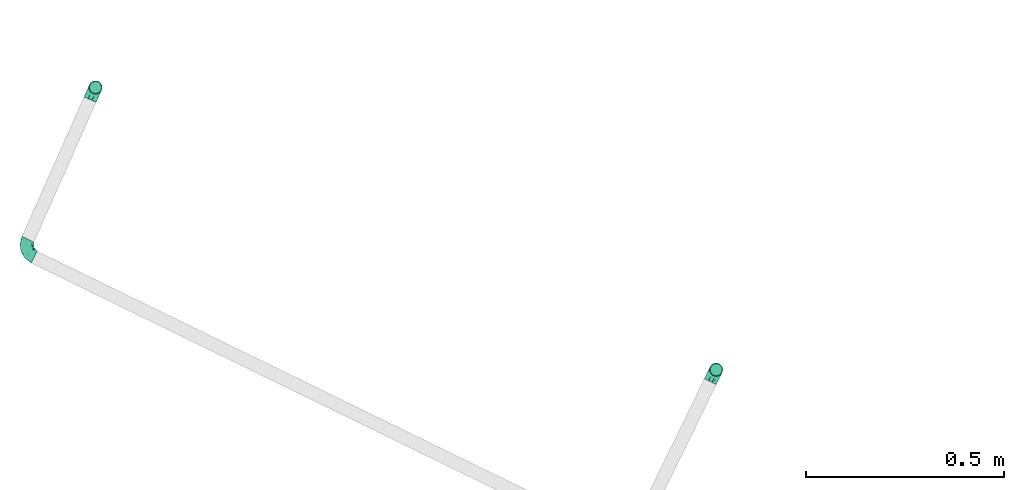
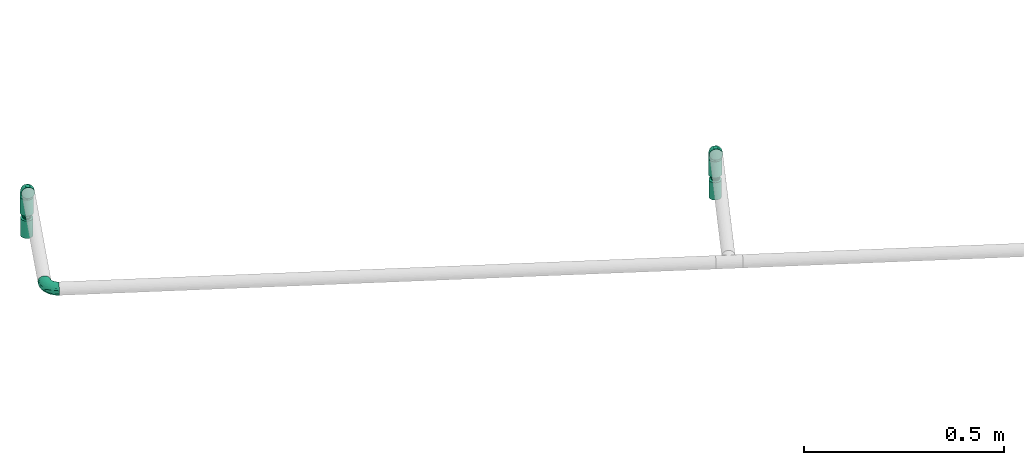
# One storey, part 34 of 43: 5 flow fittings, 2 flow segments, 2 flow terminals.
"""IFC2X3 building model written with IfcOpenShell, lengths in millimetres."""

from ifc_helpers import new_model, entity, si_unit, converted_unit, derived_unit, direction, frame, origin_with_axes, origin_2d_with_axis, place, context, subcontext, project, spatial, hollow_circle, extrude, open_shell, surface_model, source, transform, mapped, type_object, element, save


model = new_model("IFC2X3")

# Units and contexts
model_context = context("Model", 3, precision=0.01, world=frame((0.0, 4.29681676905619e-09, 0.0)), true_north=direction((4.01073788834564e-13, 1.0)))
plan_context = context("Plan", 3, precision=0.01, world=frame((0.0, 4.29681676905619e-09, 0.0)), true_north=direction((4.01073788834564e-13, 1.0)))
body_context = subcontext(model_context, "Body", "Model", "MODEL_VIEW")
ifc_project = project(units=[converted_unit("PLANEANGLEUNIT", "DEGREE", entity("IfcPositiveLengthMeasure", 0.0174532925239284), si_unit("PLANEANGLEUNIT", "RADIAN"), dimensions=[0, 0, 0, 0, 0, 0, 0]), si_unit("AREAUNIT", "SQUARE_METRE"), si_unit("LENGTHUNIT", "METRE", prefix="MILLI"), si_unit("MASSUNIT", "GRAM", prefix="KILO"), si_unit("POWERUNIT", "WATT"), si_unit("PRESSUREUNIT", "PASCAL"), si_unit("FORCEUNIT", "NEWTON", prefix="KILO"), si_unit("ELECTRICVOLTAGEUNIT", "VOLT"), si_unit("ELECTRICCURRENTUNIT", "AMPERE"), si_unit("THERMODYNAMICTEMPERATUREUNIT", "DEGREE_CELSIUS"), si_unit("TIMEUNIT", "SECOND"), si_unit("VOLUMEUNIT", "CUBIC_METRE"), derived_unit("LINEARVELOCITYUNIT", [(si_unit("LENGTHUNIT", "METRE"), 1), (si_unit("TIMEUNIT", "SECOND"), -1)]), derived_unit("VOLUMETRICFLOWRATEUNIT", [(si_unit("VOLUMEUNIT", "CUBIC_METRE"), 1), (si_unit("TIMEUNIT", "SECOND"), -1)]), derived_unit("THERMALTRANSMITTANCEUNIT", [(si_unit("POWERUNIT", "WATT"), 1), (si_unit("THERMODYNAMICTEMPERATUREUNIT", "KELVIN"), -1), (si_unit("AREAUNIT", "SQUARE_METRE"), -1)]), derived_unit("SOUNDPRESSUREUNIT", [(si_unit("PRESSUREUNIT", "PASCAL"), 1)])], contexts=[model_context, plan_context])

# Site, building, storey
site_placement = place(None, frame((0.0, -4.29681676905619e-09, 0.0), z_axis=(0.0, 0.0, 1.0), x_axis=(1.0, 0.0, 0.0)))
site = spatial("IfcSite", under=ifc_project, at=site_placement, CompositionType="ELEMENT")
building_placement = place(site_placement, frame((0.0, 4.29681676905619e-09, 0.0), z_axis=(0.0, 0.0, 1.0), x_axis=(1.0, 0.0, 0.0)))
building = spatial("IfcBuilding", under=site, at=building_placement, Name="mc-building", CompositionType="ELEMENT")
storey_placement = place(building_placement, frame((0.0, 0.0, 210900.0), z_axis=(0.0, 0.0, 1.0), x_axis=(1.0, 0.0, 0.0)))
storey = spatial("IfcBuildingStorey", under=building, at=storey_placement, Name="Nivå F", CompositionType="ELEMENT", Elevation=210900.0)

# Flow fittings
pipe_fitting_type_1 = type_object("IfcPipeFittingType", Name="magi_pipe_fe_elbow_short_001", PredefinedType="BEND")
shared_shape_1 = source(origin_with_axes(), body_context, "Body", "SurfaceModel", [
    surface_model("IfcShellBasedSurfaceModel", [(-33.8, 4.37404, -16.32415), (-33.8, 0.0, -16.9), (-33.8, 11.9501, -11.9501), (-33.8, 8.45, -14.63583), (-33.8, 16.32415, -4.37404), (-33.8, 14.63583, -8.45), (-33.8, -14.63583, -8.45), (-33.8, -16.32415, -4.37404), (-33.8, -8.45, 14.63583), (-33.8, -11.9501, -11.9501), (-33.8, -8.45, -14.63583), (-33.8, -4.37404, -16.32415), (-33.8, -16.9, 0.0), (-33.8, -16.32415, 4.37404), (-33.8, 11.9501, 11.9501), (-33.8, 14.63583, 8.45), (-33.8, 16.32415, 4.37404), (-33.8, 4.37404, 16.32415), (-33.8, 8.45, 14.63583), (-33.8, -14.63583, 8.45), (-33.8, -11.9501, 11.9501), (-33.8, -4.37404, 16.32415), (-33.8, 0.0, 16.9), (-33.8, 16.9, 0.0), (-11.9501, 33.8, -11.9501), (0.0, 33.8, -16.9), (-4.37404, 33.8, -16.32415), (-8.45, 33.8, -14.63583), (-14.63583, 33.8, -8.45), (-16.32415, 33.8, -4.37404), (14.63583, 33.8, -8.45), (8.45, 33.8, 14.63583), (16.32415, 33.8, -4.37404), (8.45, 33.8, -14.63583), (11.9501, 33.8, -11.9501), (4.37404, 33.8, -16.32415), (16.32415, 33.8, 4.37404), (16.9, 33.8, 0.0), (-11.9501, 33.8, 11.9501), (-16.32415, 33.8, 4.37404), (-14.63583, 33.8, 8.45), (-8.45, 33.8, 14.63583), (-4.37404, 33.8, 16.32415), (11.9501, 33.8, 11.9501), (14.63583, 33.8, 8.45), (0.0, 33.8, 16.9), (4.37404, 33.8, 16.32415), (-16.9, 33.8, 0.0), (-24.79389, -13.12945, 9.48721), (-22.19287, -9.75018, 12.59315), (-24.09897, -14.97035, 0.0), (-14.93934, -10.76256, 8.5297), (-22.46095, -14.75051, 5.27077), (14.75051, 22.46094, 5.27077), (11.9251, 13.23888, 4.33236), (13.04069, 14.39795, 0.0), (7.71387, 13.68847, 11.55891), (9.75018, 22.19287, 12.59315), (4.10169, 13.0571, 14.04018), (-24.84007, -6.39063, 15.2048), (-25.81779, -2.23879, 16.61097), (-23.66549, 2.59054, 16.87119), (-26.50418, 14.06512, 11.08152), (-24.21253, 17.66365, 7.72657), (-29.58514, 15.86957, 7.00283), (-6.17382, -7.5455, 0.0), (-13.23888, -11.9251, 4.33236), (-14.39795, -13.04069, 0.0), (-17.81434, 18.87373, 11.97104), (-6.30846, 29.15138, 15.82987), (-2.31622, 25.28002, 16.85849), (-29.23923, 10.23435, 13.77053), (-1.45439, -2.85688, 7.61475), (-0.28326, 0.34872, 10.09509), (-5.74484, -4.04709, 10.4122), (-4.41137, 11.31918, 16.59407), (-8.39727, 3.10034, 15.7812), (-1.72649, 9.1306, 15.53089), (-17.39909, 24.75344, 7.64977), (-26.19233, 20.0512, 0.0), (-28.14518, 17.29657, 4.25857), (-26.05147, 6.6281, 15.96447), (-5.87354, 16.61944, 16.86968), (-12.51807, 12.51807, 16.48937), (-10.06312, 7.38516, 16.81295), (-3.01882, 3.01882, 13.81718), (-13.0571, -4.10169, 14.04018), (-16.82553, -0.15166, 16.38038), (10.76256, 14.93934, 8.5297), (13.12945, 24.79389, 9.48721), (6.39063, 24.84007, 15.2048), (2.23879, 25.81779, 16.61097), (-13.68847, -7.71387, 11.55891), (14.97035, 24.09897, 0.0), (-7.30894, 22.89991, 16.09489), (-10.67958, 26.17414, 14.008), (-12.78295, 18.26924, 15.06066), (-13.88562, 22.45231, 12.93244), (-18.04944, 15.16501, 14.04434), (-23.11658, 20.08178, 4.02986), (-21.84989, 21.84989, 0.0), (-18.55817, 25.48277, 3.93065), (-13.95142, 26.94732, 11.03289), (-18.57098, 7.23906, 16.59756), (-16.58335, 4.14122, 16.89279), (-17.96666, 11.46709, 15.63151), (-9.84453, 17.54304, 16.18938), (0.15166, 16.82553, 16.38038), (-23.27207, 11.47201, 14.23154), (3.84842, 5.86994, 10.70473), (-8.0212, -7.54413, 7.93275), (1.00345, -2.19508, 4.57414), (5.13203, 3.01004, 5.90201), (5.24161, 1.7543, 2.53265), (8.70457, 7.04947, 3.99182), (-20.0512, 26.19233, 0.0), (8.4852, 8.76699, 7.09296), (-4.55488, -6.72064, 4.90681), (2.05031, -2.05031, 0.0), (7.5455, 6.17382, 0.0), (-26.75399, 2.1369, -16.845), (-14.61995, 24.73803, -11.27736), (-28.45274, -13.45335, -9.81895), (-26.00469, 6.63555, -15.96645), (-23.06726, 20.04573, -4.26202), (-13.80647, -4.26506, -14.17873), (-14.67501, -0.21081, -16.07388), (-6.7902, -0.2828, -13.8478), (-24.53586, 11.08096, -14.13417), (-26.72048, 14.00837, -11.05776), (10.0967, 24.44989, -12.75976), (5.83237, 21.40218, -15.03047), (6.66249, 28.54238, -15.38093), (-20.38182, 15.48705, -12.74596), (-15.65186, 19.64213, -13.01327), (-12.03528, 20.66498, -14.67665), (-15.61907, 15.61906, -14.83879), (-25.56551, -15.26206, 0.0), (-24.65452, -15.12934, -5.50955), (12.53268, 21.23441, -9.15363), (13.45335, 28.45274, -9.81895), (15.12934, 24.65452, -5.50955), (-7.35442, -8.31014, -5.65563), (-15.67504, -12.54494, -5.54878), (-24.44989, -10.0967, -12.75976), (0.16522, 0.41303, -9.71728), (-5.70658, -5.33066, -8.89288), (-5.13869, -2.37198, -11.53565), (-21.23441, -12.53268, -9.15363), (0.71146, 7.93863, -14.09382), (0.21081, 14.67501, -16.07388), (3.49291, 14.42772, -14.76381), (-24.89911, -2.13088, -16.591), (-28.54238, -6.66249, -15.38093), (-18.44386, -7.71663, -13.26957), (2.13088, 24.89911, -16.591), (-28.64342, 17.44413, -2.89318), (1.70017, -1.28722, -5.09504), (-16.57067, 26.81947, -7.36596), (-17.69055, 27.4263, -3.76405), (-12.89279, -9.7522, -8.66343), (-5.96611, 5.96611, -15.95814), (-20.53709, 20.09345, -8.28985), (-2.1369, 26.75399, -16.845), (-6.89872, 24.58781, -16.02578), (-10.60739, 26.53157, -13.98044), (-21.40218, -5.83237, -15.03047), (2.93192, 5.89627, -11.55917), (6.89393, 12.61842, -11.82233), (5.58056, 5.95325, -8.79455), (-3.99512, 18.61798, -16.89635), (-9.1383, 9.86148, -16.89041), (-9.99983, 16.02119, -16.39699), (-16.68576, 9.78031, -16.34199), (-27.01915, 16.61158, -7.12979), (15.26206, 25.56551, 0.0), (-18.61798, 3.99512, -16.89635), (-19.37495, 27.82495, 0.0), (9.7522, 12.89279, -8.66343), (-12.61842, -6.89393, -11.82233), (8.31014, 7.35442, -5.65563), (-18.84705, 19.14018, -10.96545), (12.54494, 15.67504, -5.54878)], [open_shell([[[0, 1, 2]], [[3, 0, 2]], [[4, 5, 2]], [[6, 2, 1]], [[2, 7, 8]], [[9, 6, 10]], [[1, 11, 10]], [[10, 6, 1]], [[2, 6, 7]], [[12, 13, 7]], [[4, 2, 14]], [[4, 15, 16]], [[4, 14, 15]], [[17, 18, 14]], [[14, 2, 8]], [[17, 14, 8]], [[19, 20, 13]], [[20, 7, 13]], [[21, 22, 8]], [[20, 8, 7]], [[8, 22, 17]], [[4, 16, 23]], [[24, 25, 26]], [[24, 26, 27]], [[24, 28, 29]], [[25, 24, 30]], [[31, 32, 24]], [[33, 30, 34]], [[33, 35, 25]], [[25, 30, 33]], [[32, 30, 24]], [[32, 36, 37]], [[38, 24, 29]], [[39, 40, 29]], [[40, 38, 29]], [[38, 41, 42]], [[38, 31, 24]], [[31, 38, 42]], [[36, 43, 44]], [[36, 32, 43]], [[31, 45, 46]], [[32, 31, 43]], [[42, 45, 31]], [[39, 29, 47]], [[20, 48, 49]], [[13, 12, 50]], [[51, 48, 52]], [[53, 54, 55]], [[48, 20, 19]], [[13, 52, 19]], [[56, 57, 58]], [[49, 8, 20]], [[49, 59, 8]], [[22, 60, 61]], [[62, 63, 64]], [[65, 66, 67]], [[57, 43, 31]], [[62, 68, 63]], [[42, 69, 70]], [[18, 71, 14]], [[21, 60, 22]], [[72, 73, 74]], [[75, 76, 77]], [[14, 62, 15]], [[40, 39, 78]], [[79, 23, 80]], [[64, 16, 15]], [[22, 61, 17]], [[17, 81, 18]], [[82, 83, 84]], [[74, 85, 86]], [[59, 86, 87]], [[88, 89, 57]], [[90, 31, 46]], [[44, 53, 36]], [[46, 45, 91]], [[54, 53, 88]], [[44, 89, 53]], [[92, 86, 49]], [[89, 44, 43]], [[8, 59, 21]], [[53, 55, 93]], [[93, 36, 53]], [[66, 52, 67]], [[94, 82, 70]], [[95, 96, 94]], [[97, 98, 96]], [[79, 99, 100]], [[41, 38, 95]], [[101, 100, 99]], [[68, 78, 63]], [[42, 41, 69]], [[23, 16, 80]], [[95, 94, 69]], [[78, 101, 99]], [[38, 102, 95]], [[70, 45, 42]], [[97, 95, 102]], [[13, 50, 52]], [[90, 57, 31]], [[57, 90, 58]], [[81, 17, 61]], [[103, 104, 84]], [[105, 81, 103]], [[38, 40, 102]], [[106, 96, 83]], [[94, 106, 82]], [[91, 70, 107]], [[71, 62, 14]], [[62, 108, 98]], [[86, 59, 49]], [[67, 52, 50]], [[60, 59, 87]], [[92, 49, 51]], [[86, 85, 76]], [[91, 90, 46]], [[37, 36, 93]], [[107, 77, 58]], [[107, 58, 90]], [[58, 85, 109]], [[110, 74, 92]], [[72, 74, 110]], [[66, 51, 52]], [[72, 111, 112]], [[113, 114, 112]], [[56, 88, 57]], [[52, 48, 19]], [[49, 48, 51]], [[57, 89, 43]], [[53, 89, 88]], [[103, 81, 61]], [[71, 81, 108]], [[16, 64, 80]], [[63, 78, 99]], [[47, 115, 101]], [[101, 115, 100]], [[40, 78, 102]], [[68, 102, 78]], [[97, 96, 95]], [[105, 98, 108]], [[103, 84, 83]], [[107, 70, 82]], [[76, 84, 87]], [[82, 84, 75]], [[70, 91, 45]], [[90, 91, 107]], [[59, 60, 21]], [[61, 60, 87]], [[73, 85, 74]], [[109, 112, 116]], [[103, 61, 104]], [[105, 103, 83]], [[96, 105, 83]], [[81, 105, 108]], [[96, 98, 105]], [[62, 98, 68]], [[61, 87, 104]], [[87, 84, 104]], [[86, 76, 87]], [[77, 76, 85]], [[58, 77, 85]], [[75, 77, 107]], [[82, 75, 107]], [[76, 75, 84]], [[81, 71, 18]], [[62, 71, 108]], [[95, 69, 41]], [[70, 69, 94]], [[62, 64, 15]], [[80, 63, 99]], [[63, 80, 64]], [[80, 99, 79]], [[66, 65, 117]], [[110, 66, 117]], [[112, 114, 116]], [[118, 117, 65]], [[110, 92, 51]], [[112, 111, 113]], [[119, 55, 54]], [[74, 86, 92]], [[58, 109, 56]], [[116, 56, 109]], [[66, 110, 51]], [[72, 110, 117]], [[111, 72, 117]], [[73, 112, 109]], [[117, 118, 111]], [[113, 111, 118]], [[118, 119, 113]], [[114, 119, 54]], [[119, 114, 113]], [[116, 54, 88]], [[54, 116, 114]], [[116, 88, 56]], [[112, 73, 72]], [[85, 73, 109]], [[78, 39, 101]], [[47, 101, 39]], [[102, 68, 97]], [[97, 68, 98]], [[82, 106, 83]], [[94, 96, 106]], [[0, 120, 1]], [[28, 24, 121]], [[9, 122, 6]], [[3, 123, 0]], [[100, 124, 79]], [[125, 126, 127]], [[128, 2, 129]], [[130, 131, 132]], [[128, 129, 133]], [[134, 135, 136]], [[128, 3, 2]], [[67, 137, 138]], [[139, 140, 141]], [[138, 7, 6]], [[142, 65, 143]], [[144, 9, 10]], [[145, 146, 147]], [[143, 138, 148]], [[149, 150, 151]], [[152, 11, 1]], [[10, 153, 144]], [[148, 144, 154]], [[153, 10, 11]], [[35, 155, 25]], [[23, 79, 156]], [[146, 157, 142]], [[158, 159, 29]], [[143, 160, 142]], [[161, 150, 149]], [[29, 28, 158]], [[121, 162, 158]], [[33, 34, 130]], [[25, 163, 26]], [[26, 163, 164]], [[140, 34, 30]], [[24, 27, 165]], [[124, 159, 162]], [[155, 35, 132]], [[153, 152, 166]], [[123, 3, 128]], [[167, 168, 169]], [[170, 155, 150]], [[26, 164, 27]], [[132, 35, 33]], [[140, 130, 34]], [[166, 152, 126]], [[133, 134, 136]], [[2, 5, 129]], [[168, 131, 130]], [[30, 32, 141]], [[170, 171, 172]], [[173, 123, 128]], [[156, 174, 4]], [[165, 27, 164]], [[172, 164, 170]], [[134, 165, 135]], [[122, 138, 6]], [[137, 12, 7]], [[32, 37, 175]], [[168, 130, 139]], [[150, 155, 131]], [[163, 155, 170]], [[151, 168, 149]], [[150, 161, 171]], [[166, 125, 154]], [[122, 144, 148]], [[120, 152, 1]], [[176, 171, 126]], [[176, 126, 152]], [[126, 161, 127]], [[160, 143, 148]], [[137, 7, 138]], [[32, 175, 141]], [[55, 141, 175]], [[174, 129, 5]], [[128, 133, 136]], [[173, 128, 136]], [[120, 123, 176]], [[121, 158, 28]], [[159, 100, 177]], [[164, 172, 135]], [[121, 24, 165]], [[159, 47, 29]], [[79, 124, 156]], [[124, 162, 174]], [[159, 124, 100]], [[178, 169, 168]], [[127, 161, 149]], [[145, 169, 157]], [[146, 142, 160]], [[127, 149, 167]], [[127, 179, 125]], [[129, 174, 162]], [[5, 4, 174]], [[157, 65, 142]], [[67, 138, 143]], [[123, 120, 0]], [[152, 120, 176]], [[155, 163, 25]], [[164, 163, 170]], [[170, 150, 171]], [[173, 136, 172]], [[126, 171, 161]], [[173, 171, 176]], [[171, 173, 172]], [[123, 173, 176]], [[148, 179, 160]], [[127, 147, 179]], [[179, 146, 160]], [[157, 146, 145]], [[169, 178, 180]], [[168, 139, 178]], [[157, 169, 180]], [[169, 145, 167]], [[167, 145, 147]], [[149, 168, 167]], [[162, 181, 129]], [[181, 121, 134]], [[179, 147, 146]], [[167, 147, 127]], [[181, 134, 133]], [[165, 134, 121]], [[164, 135, 165]], [[172, 136, 135]], [[129, 181, 133]], [[121, 181, 162]], [[159, 158, 162]], [[47, 159, 177]], [[174, 156, 124]], [[23, 156, 4]], [[130, 132, 33]], [[155, 132, 131]], [[141, 140, 30]], [[130, 140, 139]], [[152, 153, 11]], [[144, 153, 166]], [[144, 122, 9]], [[138, 122, 148]], [[150, 131, 151]], [[157, 119, 118]], [[67, 143, 65]], [[168, 151, 131]], [[119, 157, 180]], [[157, 118, 65]], [[154, 125, 179]], [[126, 125, 166]], [[148, 154, 179]], [[166, 154, 144]], [[139, 182, 178]], [[141, 182, 139]], [[178, 182, 180]], [[182, 55, 119]], [[141, 55, 182]], [[182, 119, 180]]])]),
])
for number, where, z_axis, x_axis, name in (
    (1, (604251.49635, 697805.84266, 2571.79999999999), (0.898794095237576, -0.438371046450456, 0.0), (0.0, 0.0, 1.0), "magi_pipe_fe_elbow_short_001"),
    (2, (602495.48601, 698105.39701, 2571.79999999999), (0.0, 0.0, 1.0), (-0.438371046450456, -0.898794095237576, 0.0), "magi_pipe_fe_elbow_short_001"),
    (3, (602681.0302, 698519.82919, 2571.79999999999), (0.913778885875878, -0.406211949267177, 0.0), (0.0, 0.0, 1.0), "magi_pipe_fe_elbow_short_001"),
):
    element("IfcFlowFitting", number, at=place(storey_placement, frame(where, z_axis=z_axis, x_axis=x_axis)), inside=storey, type_object=pipe_fitting_type_1, Name=name, context=body_context, shape_type="MappedRepresentation", body=[
        mapped(shared_shape_1, transform((0.0, 0.0, 0.0), scale=1.0)),
    ])
pipe_fitting_type_2 = type_object("IfcPipeFittingType", Name="magi_pipe_fe_reducer_centric_short_NOR", PredefinedType="TRANSITION")
shared_shape_2 = source(origin_with_axes(), body_context, "Body", "SurfaceModel", [
    surface_model("IfcShellBasedSurfaceModel", [(14.4, 4.37404, -16.32415), (14.4, 8.45, -14.63583), (14.4, 11.9501, -11.9501), (14.4, -8.45, -14.63583), (14.4, 16.32415, -4.37404), (14.4, 16.32415, 4.37404), (14.4, 14.63583, -8.45), (14.4, 0.0, -16.9), (14.4, -4.37404, -16.32415), (14.4, -11.9501, -11.9501), (14.4, -16.32415, -4.37404), (14.4, -14.63583, -8.45), (14.4, -16.32415, 4.37404), (14.4, 16.9, 0.0), (14.4, 14.63583, 8.45), (14.4, 11.9501, 11.9501), (14.4, 4.37404, 16.32415), (14.4, 8.45, 14.63583), (14.4, 0.0, 16.9), (14.4, -14.63583, 8.45), (14.4, -16.9, 0.0), (14.4, -8.45, 14.63583), (14.4, -11.9501, 11.9501), (14.4, -4.37404, 16.32415), (12.4, 4.37404, 16.32415), (12.4, -14.63583, 8.45), (12.4, 0.0, 16.9), (12.4, 16.32415, 4.37404), (12.4, 8.45, 14.63583), (12.4, 11.9501, 11.9501), (12.4, 14.63583, 8.45), (12.4, -8.45, 14.63583), (12.4, -11.9501, 11.9501), (12.4, -4.37404, 16.32415), (12.4, -16.32415, 4.37404), (12.4, -16.32415, -4.37404), (12.4, -16.9, 0.0), (12.4, -8.45, -14.63583), (12.4, 16.32415, -4.37404), (12.4, 11.9501, -11.9501), (12.4, 14.63583, -8.45), (12.4, 8.45, -14.63583), (12.4, 4.37404, -16.32415), (12.4, 0.0, -16.9), (12.4, -11.9501, -11.9501), (12.4, -14.63583, -8.45), (12.4, -4.37404, -16.32415), (12.4, 16.9, 0.0), (-2.0, 10.33541, 2.76936), (-2.0, 0.0, 10.7), (-2.0, 2.76936, 10.33541), (-2.0, 7.56604, 7.56604), (-2.0, 5.35, 9.26647), (-2.0, 9.26647, 5.35), (-2.0, -9.26647, 5.35), (-2.0, -2.76936, 10.33541), (-2.0, -7.56604, 7.56604), (-2.0, -5.35, 9.26647), (-2.0, -10.33541, 2.76936), (-2.0, -10.33541, -2.76936), (-2.0, -10.7, 0.0), (-2.0, 10.33541, -2.76936), (-2.0, 7.56604, -7.56604), (-2.0, 9.26647, -5.35), (-2.0, 5.35, -9.26647), (-2.0, -5.35, -9.26647), (-2.0, 2.76936, -10.33541), (-2.0, -7.56604, -7.56604), (-2.0, -9.26647, -5.35), (-2.0, 0.0, -10.7), (-2.0, -2.76936, -10.33541), (-2.0, 10.7, 0.0), (0.0, 5.35, -9.26647), (0.0, 0.0, -10.7), (0.0, 2.76936, -10.33541), (0.0, 10.33541, -2.76936), (0.0, 7.56604, -7.56604), (0.0, -5.35, -9.26647), (0.0, 9.26647, -5.35), (0.0, -9.26647, 5.35), (0.0, -2.76936, -10.33541), (0.0, -7.56604, -7.56604), (0.0, -10.33541, -2.76936), (0.0, -9.26647, -5.35), (0.0, 10.33541, 2.76936), (0.0, 10.7, 0.0), (0.0, 9.26647, 5.35), (0.0, 7.56604, 7.56604), (0.0, 2.76936, 10.33541), (0.0, 0.0, 10.7), (0.0, 5.35, 9.26647), (0.0, -10.33541, 2.76936), (0.0, -10.7, 0.0), (0.0, -7.56604, 7.56604), (0.0, -2.76936, 10.33541), (0.0, -5.35, 9.26647), (0.0, -9.3625, -2.31662), (12.4, -14.42505, -5.97505), (12.4, -15.66253, -2.98753), (0.0, 6.6875, -6.94985), (12.4, 8.96258, -13.18758), (0.0, -6.6875, -6.94985), (12.4, -8.96258, -13.18758), (0.0, 9.3625, -2.31662), (12.4, 15.66253, -2.98753), (12.4, 14.42505, -5.97505), (12.4, -5.97505, -14.42505), (12.4, 5.97505, -14.42505), (0.0, 2.675, -9.26647), (12.4, 13.18758, -8.96258), (0.0, -2.675, -9.26647), (12.4, -13.18758, -8.96258), (0.0, -8.025, -4.63324), (12.4, 2.98753, -15.66253), (0.0, 0.0, -9.26647), (12.4, -2.98753, -15.66253), (0.0, 8.025, -4.63324), (0.0, 9.3625, 2.31662), (12.4, 14.42505, 5.97505), (12.4, 15.66253, 2.98753), (0.0, -6.6875, 6.94985), (12.4, -8.96258, 13.18758), (0.0, 6.6875, 6.94985), (12.4, 8.96258, 13.18758), (0.0, -9.3625, 2.31662), (12.4, -15.66253, 2.98753), (12.4, -14.42505, 5.97505), (12.4, 5.97505, 14.42505), (12.4, -5.97505, 14.42505), (0.0, -2.675, 9.26647), (12.4, -13.18758, 8.96258), (0.0, 2.675, 9.26647), (12.4, 13.18758, 8.96258), (0.0, 8.025, 4.63324), (12.4, -2.98753, 15.66253), (0.0, 0.0, 9.26647), (12.4, 2.98753, 15.66253), (0.0, -8.025, 4.63324)], [open_shell([[[0, 1, 2]], [[3, 0, 2]], [[2, 4, 5]], [[4, 2, 6]], [[2, 5, 3]], [[7, 3, 8]], [[7, 0, 3]], [[9, 10, 11]], [[10, 9, 3]], [[3, 12, 10]], [[5, 4, 13]], [[5, 14, 15]], [[5, 15, 16]], [[16, 12, 3]], [[16, 15, 17]], [[12, 16, 18]], [[18, 19, 12]], [[20, 10, 12]], [[19, 21, 22]], [[19, 18, 21]], [[21, 18, 23]], [[3, 5, 16]], [[24, 25, 26]], [[27, 24, 28]], [[29, 30, 27]], [[29, 27, 28]], [[25, 24, 27]], [[31, 25, 32]], [[31, 33, 26]], [[26, 25, 31]], [[34, 25, 27]], [[34, 35, 36]], [[34, 27, 37]], [[27, 38, 39]], [[39, 38, 40]], [[39, 41, 42]], [[37, 27, 39]], [[42, 43, 39]], [[35, 44, 45]], [[44, 35, 37]], [[37, 43, 46]], [[35, 34, 37]], [[39, 43, 37]], [[38, 27, 47]], [[35, 10, 36]], [[45, 11, 35]], [[3, 44, 37]], [[45, 44, 9]], [[8, 37, 46]], [[35, 11, 10]], [[10, 20, 36]], [[8, 3, 37]], [[9, 44, 3]], [[9, 11, 45]], [[7, 8, 46]], [[46, 43, 7]], [[42, 0, 43]], [[41, 1, 42]], [[6, 39, 40]], [[41, 39, 2]], [[4, 40, 38]], [[41, 2, 1]], [[1, 0, 42]], [[13, 4, 38]], [[6, 40, 4]], [[6, 2, 39]], [[47, 13, 38]], [[43, 0, 7]], [[27, 5, 47]], [[30, 14, 27]], [[17, 29, 28]], [[30, 29, 15]], [[16, 28, 24]], [[27, 14, 5]], [[5, 13, 47]], [[16, 17, 28]], [[15, 29, 17]], [[15, 14, 30]], [[18, 16, 24]], [[24, 26, 18]], [[33, 23, 26]], [[31, 21, 33]], [[19, 32, 25]], [[31, 32, 22]], [[12, 25, 34]], [[31, 22, 21]], [[21, 23, 33]], [[20, 12, 34]], [[19, 25, 12]], [[19, 22, 32]], [[36, 20, 34]], [[26, 23, 18]], [[48, 49, 50]], [[51, 50, 52]], [[51, 53, 48]], [[51, 48, 50]], [[49, 48, 54]], [[55, 56, 57]], [[56, 55, 54]], [[58, 59, 60]], [[54, 55, 49]], [[58, 54, 59]], [[54, 48, 61]], [[59, 54, 61]], [[62, 61, 63]], [[59, 62, 64]], [[61, 62, 59]], [[65, 64, 66]], [[59, 67, 68]], [[67, 59, 65]], [[65, 69, 70]], [[65, 59, 64]], [[66, 69, 65]], [[61, 48, 71]], [[72, 73, 74]], [[75, 72, 76]], [[77, 72, 75]], [[75, 76, 78]], [[79, 77, 75]], [[73, 77, 80]], [[73, 72, 77]], [[81, 82, 83]], [[82, 81, 77]], [[77, 79, 82]], [[84, 75, 85]], [[84, 86, 87]], [[75, 87, 79]], [[88, 89, 87]], [[88, 87, 90]], [[79, 87, 89]], [[82, 91, 92]], [[79, 91, 82]], [[93, 94, 95]], [[94, 93, 79]], [[89, 94, 79]], [[75, 84, 87]], [[59, 82, 60]], [[68, 83, 59]], [[77, 67, 65]], [[68, 67, 81]], [[80, 65, 70]], [[59, 83, 82]], [[82, 92, 60]], [[80, 77, 65]], [[81, 67, 77]], [[81, 83, 68]], [[73, 80, 70]], [[70, 69, 73]], [[66, 74, 69]], [[64, 72, 66]], [[78, 62, 63]], [[64, 62, 76]], [[75, 63, 61]], [[64, 76, 72]], [[72, 74, 66]], [[85, 75, 61]], [[78, 63, 75]], [[78, 76, 62]], [[71, 85, 61]], [[69, 74, 73]], [[48, 84, 71]], [[53, 86, 48]], [[90, 51, 52]], [[53, 51, 87]], [[88, 52, 50]], [[48, 86, 84]], [[84, 85, 71]], [[88, 90, 52]], [[87, 51, 90]], [[87, 86, 53]], [[89, 88, 50]], [[50, 49, 89]], [[55, 94, 49]], [[57, 95, 55]], [[79, 56, 54]], [[57, 56, 93]], [[91, 54, 58]], [[57, 93, 95]], [[95, 94, 55]], [[92, 91, 58]], [[79, 54, 91]], [[79, 93, 56]], [[60, 92, 58]], [[49, 94, 89]], [[29, 26, 39]], [[39, 47, 29]], [[36, 26, 32]], [[36, 44, 43]], [[43, 39, 36]], [[36, 39, 26]], [[92, 95, 77]], [[85, 95, 90]], [[85, 72, 77]], [[85, 77, 95]], [[96, 97, 98]], [[92, 96, 98]], [[99, 100, 72]], [[98, 36, 92]], [[44, 101, 102]], [[101, 77, 102]], [[103, 104, 105]], [[85, 47, 104]], [[77, 106, 102]], [[107, 108, 72]], [[109, 39, 99]], [[106, 77, 110]], [[101, 111, 112]], [[113, 114, 108]], [[100, 99, 39]], [[110, 115, 106]], [[99, 116, 109]], [[100, 107, 72]], [[96, 112, 97]], [[105, 116, 103]], [[85, 104, 103]], [[108, 107, 113]], [[113, 43, 114]], [[116, 105, 109]], [[114, 115, 110]], [[43, 115, 114]], [[111, 101, 44]], [[111, 97, 112]], [[117, 118, 119]], [[85, 117, 119]], [[120, 121, 95]], [[119, 47, 85]], [[29, 122, 123]], [[122, 90, 123]], [[124, 125, 126]], [[92, 36, 125]], [[90, 127, 123]], [[128, 129, 95]], [[130, 32, 120]], [[127, 90, 131]], [[122, 132, 133]], [[134, 135, 129]], [[121, 120, 32]], [[131, 136, 127]], [[120, 137, 130]], [[121, 128, 95]], [[117, 133, 118]], [[126, 137, 124]], [[92, 125, 124]], [[129, 128, 134]], [[134, 26, 135]], [[137, 126, 130]], [[135, 136, 131]], [[26, 136, 135]], [[132, 122, 29]], [[132, 118, 133]]])]),
])
for number, where, z_axis, x_axis, name in (
    (4, (604251.49635, 697805.84266, 2476.79999999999), (-0.438371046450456, -0.898794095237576, 0.0), (0.0, 0.0, 1.0), "magi_pipe_fe_reducer_centric_short_NOR"),
    (5, (602681.0302, 698519.82919, 2476.79999999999), (1.0, 0.0, 0.0), (0.0, 0.0, 1.0), "magi_pipe_fe_reducer_centric_short_NOR"),
):
    element("IfcFlowFitting", number, at=place(storey_placement, frame(where, z_axis=z_axis, x_axis=x_axis)), inside=storey, type_object=pipe_fitting_type_2, Name=name, context=body_context, shape_type="MappedRepresentation", body=[
        mapped(shared_shape_2, transform((0.0, 0.0, 0.0), scale=1.0)),
    ])

# Flow segments
pipe_segment_type = type_object("IfcPipeSegmentType", Name="Stålrør normaltykke", PredefinedType="RIGIDSEGMENT")
shared_shape_3 = source(origin_with_axes(), body_context, "Body", "SweptSolid", [
    extrude(hollow_circle(Radius=16.9, WallThickness=2.0, at=origin_2d_with_axis()), frame((0.0, 0.0, 0.0), z_axis=(1.0, 0.0, 0.0), x_axis=(0.0, 1.0, 0.0)), (0.0, 0.0, 1.0), 48.8),
])
for number, where, z_axis, x_axis in (
    (6, (604251.49635, 697805.84266, 2538.0), (-0.438371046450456, -0.898794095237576, 0.0), (0.0, 0.0, -1.0)),
    (7, (602681.0302, 698519.82919, 2489.20000000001), (0.913778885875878, -0.406211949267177, 0.0), (0.0, 0.0, 1.0)),
):
    element("IfcFlowSegment", number, at=place(storey_placement, frame(where, z_axis=z_axis, x_axis=x_axis)), inside=storey, type_object=pipe_segment_type, Name="Stålrør normaltykke", context=body_context, shape_type="MappedRepresentation", body=[
        mapped(shared_shape_3, transform((0.0, 0.0, 0.0), scale=1.0)),
    ])

# Flow terminals
fire_suppression_terminal_type = type_object("IfcFireSuppressionTerminalType", Name="SP-15-K80-68DGR-STD", PredefinedType="NOTDEFINED")
shared_shape_4 = source(origin_with_axes(), body_context, "Body", "SurfaceModel", [
    surface_model("IfcShellBasedSurfaceModel", [(4.1411, -15.45481, 53.0), (8.0, -13.85641, 53.0), (11.31371, -11.31371, 53.0), (-8.0, -13.85641, 53.0), (15.45481, -4.1411, 53.0), (16.0, 0.0, 53.0), (13.85641, -8.0, 53.0), (0.0, -16.0, 53.0), (-4.1411, -15.45481, 53.0), (-13.85641, -8.0, 53.0), (-11.31371, -11.31371, 53.0), (-15.45481, -4.1411, 53.0), (15.45481, 4.1411, 53.0), (13.85641, 8.0, 53.0), (11.31371, 11.31371, 53.0), (-4.1411, 15.45481, 53.0), (8.0, 13.85641, 53.0), (4.1411, 15.45481, 53.0), (0.0, 16.0, 53.0), (-13.85641, 8.0, 53.0), (-15.45481, 4.1411, 53.0), (-16.0, 0.0, 53.0), (-11.31371, 11.31371, 53.0), (-8.0, 13.85641, 53.0), (0.0, 16.0, 0.0), (4.1411, 15.45481, 0.0), (8.0, 13.85641, 0.0), (-4.1411, 15.45481, 0.0), (11.31371, 11.31371, 0.0), (13.85641, 8.0, 0.0), (15.45481, 4.1411, 0.0), (-15.45481, -4.1411, 0.0), (-11.31371, 11.31371, 0.0), (-8.0, 13.85641, 0.0), (-13.85641, 8.0, 0.0), (-15.45481, 4.1411, 0.0), (-16.0, 0.0, 0.0), (4.1411, -15.45481, 0.0), (16.0, 0.0, 0.0), (15.45481, -4.1411, 0.0), (13.85641, -8.0, 0.0), (11.31371, -11.31371, 0.0), (8.0, -13.85641, 0.0), (-8.0, -13.85641, 0.0), (-13.85641, -8.0, 0.0), (-11.31371, -11.31371, 0.0), (0.0, -16.0, 0.0), (-4.1411, -15.45481, 0.0)], [open_shell([[[0, 1, 2]], [[3, 0, 2]], [[4, 5, 2]], [[4, 2, 6]], [[3, 2, 5]], [[7, 3, 8]], [[7, 0, 3]], [[3, 9, 10]], [[9, 3, 11]], [[5, 11, 3]], [[5, 12, 11]], [[12, 13, 14]], [[15, 12, 14]], [[16, 17, 18]], [[14, 16, 15]], [[18, 15, 16]], [[11, 19, 20]], [[21, 11, 20]], [[22, 15, 23]], [[15, 22, 19]], [[19, 11, 15]], [[11, 12, 15]], [[24, 25, 26]], [[27, 24, 26]], [[28, 29, 30]], [[27, 26, 28]], [[27, 28, 31]], [[27, 32, 33]], [[32, 27, 34]], [[34, 31, 35]], [[31, 34, 27]], [[35, 31, 36]], [[28, 30, 31]], [[37, 38, 39]], [[37, 39, 40]], [[41, 42, 37]], [[41, 37, 40]], [[38, 37, 43]], [[44, 43, 45]], [[43, 44, 31]], [[43, 46, 47]], [[43, 31, 38]], [[37, 46, 43]], [[38, 31, 30]], [[11, 31, 44]], [[45, 9, 44]], [[3, 43, 47]], [[45, 43, 10]], [[8, 47, 46]], [[31, 21, 36]], [[31, 11, 21]], [[44, 9, 11]], [[45, 10, 9]], [[3, 10, 43]], [[47, 8, 3]], [[46, 7, 8]], [[0, 37, 42]], [[41, 1, 42]], [[6, 40, 39]], [[41, 40, 2]], [[4, 39, 38]], [[37, 0, 7]], [[42, 1, 0]], [[41, 2, 1]], [[40, 6, 2]], [[4, 6, 39]], [[38, 5, 4]], [[37, 7, 46]], [[12, 38, 30]], [[13, 30, 29]], [[16, 26, 25]], [[17, 25, 24]], [[30, 13, 12]], [[12, 5, 38]], [[28, 14, 13]], [[28, 26, 14]], [[14, 26, 16]], [[25, 17, 16]], [[28, 13, 29]], [[24, 18, 17]], [[15, 27, 33]], [[32, 23, 33]], [[19, 34, 35]], [[32, 34, 22]], [[20, 35, 36]], [[27, 15, 18]], [[33, 23, 15]], [[32, 22, 23]], [[34, 19, 22]], [[20, 19, 35]], [[36, 21, 20]], [[27, 18, 24]]])]),
])
for number, where, z_axis, x_axis in (
    (8, (604251.49635, 697805.84266, 2473.75200000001), (0.0, 0.0, -1.0), (-0.438371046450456, -0.898794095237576, 0.0)),
    (9, (602681.0302, 698519.82919, 2473.75200000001), (0.0, 0.0, -1.0), (-1.0, 0.0, 0.0)),
):
    element("IfcFlowTerminal", number, at=place(storey_placement, frame(where, z_axis=z_axis, x_axis=x_axis)), inside=storey, type_object=fire_suppression_terminal_type, Name="SP-15-K80-68DGR-STD", context=body_context, shape_type="MappedRepresentation", body=[
        mapped(shared_shape_4, transform((0.0, 0.0, 0.0), scale=1.0)),
    ])

save(model, "model.ifc")
